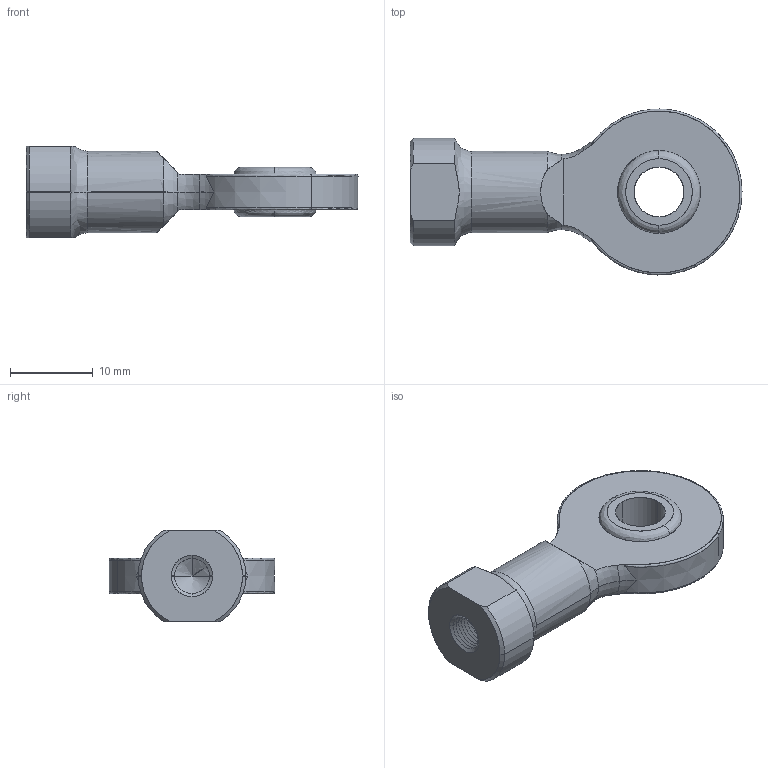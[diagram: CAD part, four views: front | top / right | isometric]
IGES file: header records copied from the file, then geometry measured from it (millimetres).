
Start section: SolidWorks IGES file using analytic representation for surfaces
Bounding box: 40 x 20 x 11 mm (x, y, z)
Surface area: 2107.1 mm2 (no closed solid volume)
Topology: 0 solids, 0 shells, 212 faces, 1498 edges, 1495 vertices
Faces by surface type: revolution 174, bspline 38
